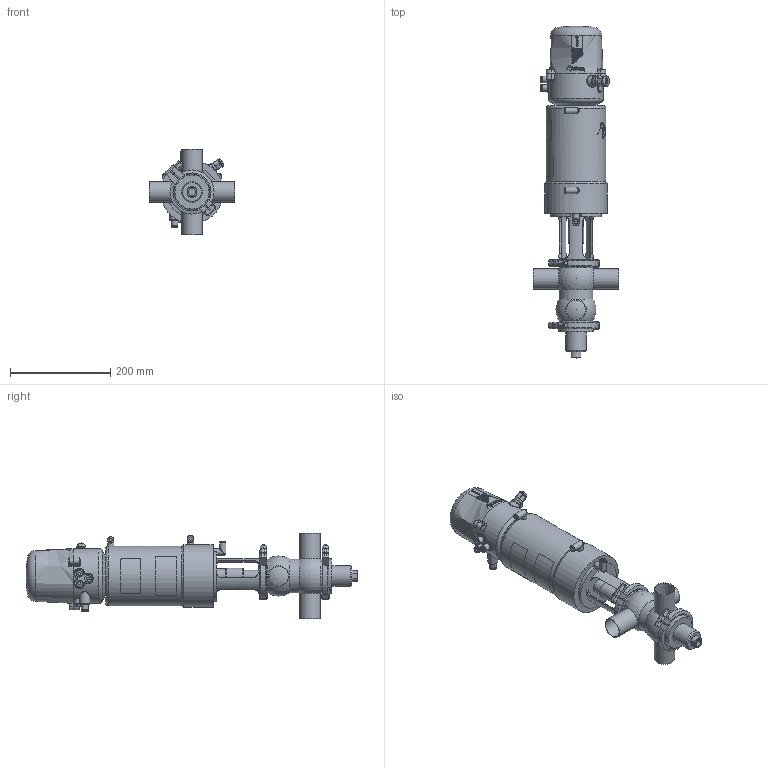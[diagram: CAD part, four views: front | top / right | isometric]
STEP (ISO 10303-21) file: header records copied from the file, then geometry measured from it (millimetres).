
FILE_DESCRIPTION (( 'STEP AP214' ), '1' );
FILE_NAME ('INNOVA P CB-90 W DIN 040 & C-TOP S_10.250.16.0015.STEP', '2024-08-09T11:37:35', ( '' ), ( '' ), 'SwSTEP 2.0', 'SolidWorks 2023', '' );
FILE_SCHEMA (( 'AUTOMOTIVE_DESIGN' ));
Length unit declared in the file: millimetre
Products named in the file (7): 10.250.15.0001_DIN 040; 10.251.15.0007_DIN 040; 10.250.15.0002_Type P T1; 10.426.15.0001_C-TOP S - 3 EV; 10.250.15.0003_DN 040; INNOVA P CB-90 W DIN 040 & C-TOP S_10.250.16.0015; 10.240.15.0001_DN 040
Assembly tree (7 placements, depth 2):
  INNOVA P CB-90 W DIN 040 & C-TOP S_10.250.16.0015
    10.250.15.0001_DIN 040
    10.250.15.0002_Type P T1
    10.426.15.0001_C-TOP S - 3 EV
    10.251.15.0007_DIN 040
    10.240.15.0001_DN 040  x2
    10.250.15.0003_DN 040
Bounding box: 170 x 662 x 170 mm (x, y, z)
Volume: 4790469.6 mm3; surface area: 381315.2 mm2
Topology: 7 solids, 7 shells, 1211 faces, 2913 edges, 1935 vertices
Faces by surface type: plane 415, cylinder 387, cone 203, bspline 163, torus 33, sphere 10
Full cylindrical faces by diameter (mm): 0.371 x17, 0.512 x16, 0.658 x16, 0.795 x16, 0.94 x15, 1.098 x15, 1.241 x13, 1.382 x13, 1.523 x11, 1.669 x10, 2.201 x1, 4.2 x2, 5 x1, 5.5 x2, 6 x4, 6.15 x3, 8 x5, 10 x1, 10.5 x3, 11 x4, 12.5 x9, 13 x6, 13.5 x2, 14 x1, 17 x3, 20 x2, 22 x2, 23 x1, 28 x1, 31.5 x1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
Entity records: 59231 total; most frequent: CARTESIAN_POINT 27690, ORIENTED_EDGE 4624, DIRECTION 3781, EDGE_CURVE 2312, VERTEX_POINT 1649, EDGE_LOOP 1637, AXIS2_PLACEMENT_3D 1557, FACE_OUTER_BOUND 1382
